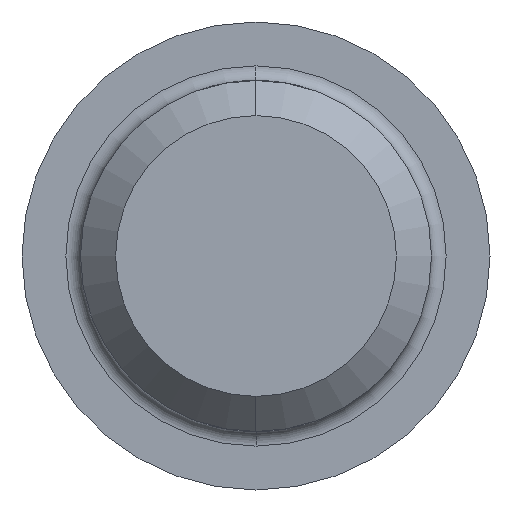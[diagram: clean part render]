
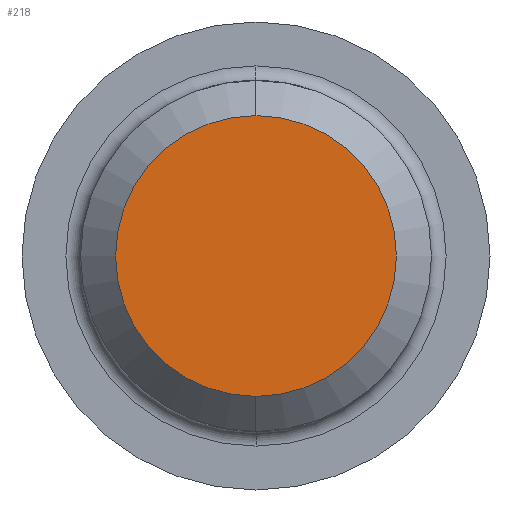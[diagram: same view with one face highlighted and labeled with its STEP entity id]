
A CAD part, left-side view. The second image highlights one B-rep face of the part: STEP entity #218.
In plain terms, the highlighted planar face has unit normal (-1, 0, 0).
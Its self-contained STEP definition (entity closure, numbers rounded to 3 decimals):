
#33 = DIRECTION ( 'NONE',  ( 0., 0., -1. ) ) ;
#60 = PLANE ( 'NONE',  #61 ) ;
#61 = AXIS2_PLACEMENT_3D ( 'NONE', #169, #168, #33 ) ;
#62 = FACE_OUTER_BOUND ( 'NONE', #92, .T. ) ;
#92 = EDGE_LOOP ( 'NONE', ( #220, #233 ) ) ;
#119 = EDGE_CURVE ( 'NONE', #164, #225, #467, .T. ) ;
#164 = VERTEX_POINT ( 'NONE', #363 ) ;
#166 = EDGE_CURVE ( 'NONE', #225, #164, #362, .T. ) ;
#168 = DIRECTION ( 'NONE',  ( 1., 0., 0. ) ) ;
#169 = CARTESIAN_POINT ( 'NONE',  ( -60., 4.8, 0. ) ) ;
#218 = ADVANCED_FACE ( 'NONE', ( #62 ), #60, .F. ) ;
#220 = ORIENTED_EDGE ( 'NONE', *, *, #119, .T. ) ;
#225 = VERTEX_POINT ( 'NONE', #560 ) ;
#233 = ORIENTED_EDGE ( 'NONE', *, *, #166, .T. ) ;
#331 = DIRECTION ( 'NONE',  ( 0., 0., 1. ) ) ;
#332 = DIRECTION ( 'NONE',  ( -1., 0., 0. ) ) ;
#333 = AXIS2_PLACEMENT_3D ( 'NONE', #364, #332, #331 ) ;
#362 = CIRCLE ( 'NONE', #333, 4.8 ) ;
#363 = CARTESIAN_POINT ( 'NONE',  ( -60., 0., -4.8 ) ) ;
#364 = CARTESIAN_POINT ( 'NONE',  ( -60., 0., 0. ) ) ;
#463 = DIRECTION ( 'NONE',  ( 0., 0., 1. ) ) ;
#464 = DIRECTION ( 'NONE',  ( -1., 0., 0. ) ) ;
#467 = CIRCLE ( 'NONE', #474, 4.8 ) ;
#468 = CARTESIAN_POINT ( 'NONE',  ( -60., 0., 0. ) ) ;
#474 = AXIS2_PLACEMENT_3D ( 'NONE', #468, #464, #463 ) ;
#560 = CARTESIAN_POINT ( 'NONE',  ( -60., 0., 4.8 ) ) ;
